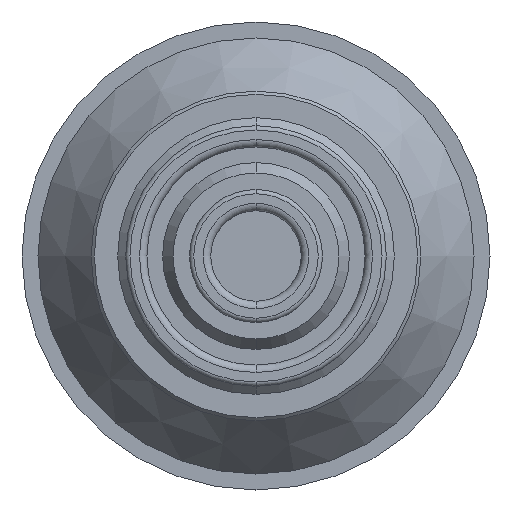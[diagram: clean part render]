
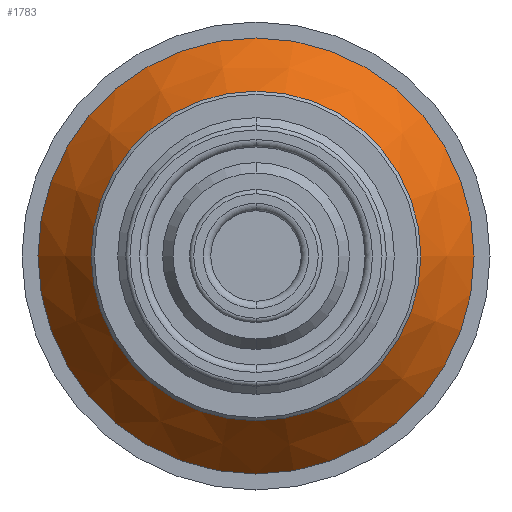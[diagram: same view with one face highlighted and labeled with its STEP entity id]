
A CAD part, front view. The second image highlights one B-rep face of the part: STEP entity #1783.
In plain terms, the highlighted conical face has half-angle 36 degrees and reference radius 20.5 mm.
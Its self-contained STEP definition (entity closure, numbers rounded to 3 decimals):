
#1125=CONICAL_SURFACE('',#4122,20.5,36.);
#1330=FACE_BOUND('',#2172,.T.);
#1331=FACE_BOUND('',#2173,.T.);
#1783=ADVANCED_FACE('',(#1330,#1331),#1125,.T.);
#2172=EDGE_LOOP('',(#2838));
#2173=EDGE_LOOP('',(#2839));
#2838=ORIENTED_EDGE('',*,*,#3493,.F.);
#2839=ORIENTED_EDGE('',*,*,#3492,.T.);
#3141=VERTEX_POINT('',#6047);
#3142=VERTEX_POINT('',#6050);
#3492=EDGE_CURVE('',#3141,#3141,#3740,.T.);
#3493=EDGE_CURVE('',#3142,#3142,#3741,.T.);
#3740=CIRCLE('',#4119,20.5);
#3741=CIRCLE('',#4121,15.414);
#4119=AXIS2_PLACEMENT_3D('',#6046,#4971,#4972);
#4121=AXIS2_PLACEMENT_3D('',#6049,#4975,#4976);
#4122=AXIS2_PLACEMENT_3D('',#6051,#4977,#4978);
#4971=DIRECTION('',(0.,0.,-1.));
#4972=DIRECTION('',(-1.,0.,0.));
#4975=DIRECTION('',(0.,0.,-1.));
#4976=DIRECTION('',(-1.,0.,0.));
#4977=DIRECTION('',(0.,0.,1.));
#4978=DIRECTION('',(1.,0.,0.));
#6046=CARTESIAN_POINT('',(0.,0.,12.));
#6047=CARTESIAN_POINT('',(-20.5,0.,12.));
#6049=CARTESIAN_POINT('',(0.,0.,5.));
#6050=CARTESIAN_POINT('',(-15.414,0.,5.));
#6051=CARTESIAN_POINT('',(0.,0.,12.));
